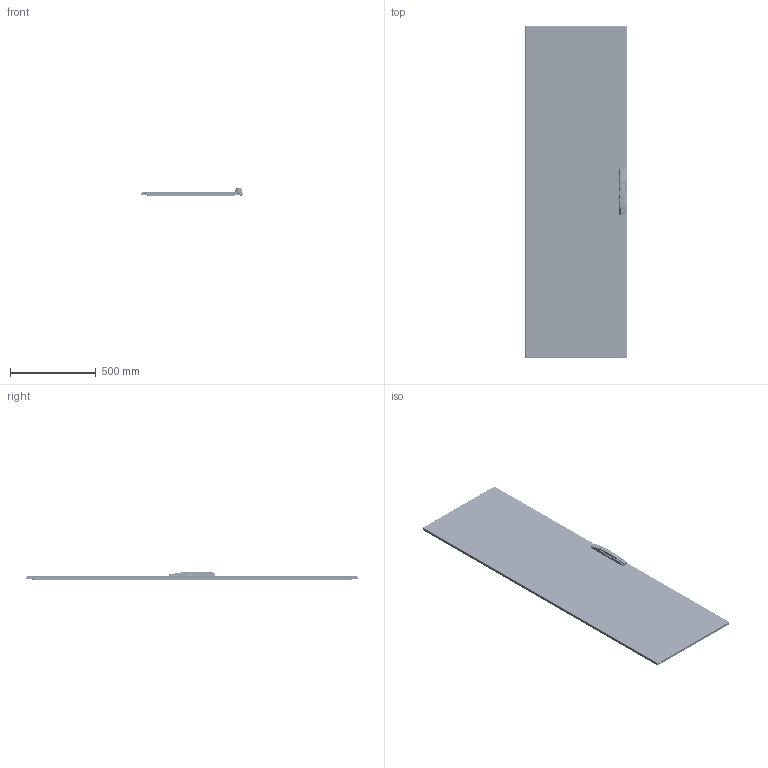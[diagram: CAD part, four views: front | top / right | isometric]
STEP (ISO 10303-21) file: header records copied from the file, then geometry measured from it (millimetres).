
FILE_DESCRIPTION (( 'STEP AP203' ), '1' );
FILE_NAME ('pds206g.STEP', '2013-10-16T10:41:40', ( '' ), ( '' ), 'SwSTEP 2.0', 'SolidWorks 2010', '' );
FILE_SCHEMA (( 'CONFIG_CONTROL_DESIGN' ));
Products named in the file (49): 89101845; 89091664_875472289; 20127259_20127259; 60127172_60127172; 87934847_87934847; 87920638_87920638; 87931368_SLEEVE; 87931527_87931527; 60100041_60100041; 60127101_After Weld; 31127217_31127217; 11458078_11458078; pds206g; 60127207; 46139001_46139001; 60127212; 60127208; 51137001; 60127093; 51138001_Compressed; 51223001; 46120001_Compressed; 11358765; 51145001_Extended; 11258014; 51231001; 11358763; 11258012; 11258013; 11358764; 51140001; 11458036; 11458037; 60127430; 60127173_60127173; 51232001_51232001; 60127277_60127277; 11158133_11581133; 11158132_THIKNESS .155 FIXED; 60127139_60127139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
Assembly tree (83 placements, depth 4):
  pds206g
    60127224_60127224
      11158133_11581133  x3
      11158132_THIKNESS .155 FIXED  x8
      60127106_60127106
      60127216_60127216  x3
        60127138_60127138
        60127140_60127140
        87576035_87576035
      60127139_60127139  x4
      60127175_60127175  x2
    20127259_20127259
      89091664_875472289  x4
      60127383_60127383  x2
      60127141_60127141  x2
      89101845  x4
    60127430
      60127207
      51145001_Extended
      11358764
      51138001_Compressed
      11458037
      51223001
      51140001
      11358763
      60127208
      46120001_Compressed
      11458036
      60127093
      51231001
      11258013
      46139001_46139001  x2
      11258014
      11258012
      60127212
      11358765
      51137001
    60127277_60127277  x2
      60127173_60127173
      51232001_51232001
    11458078_11458078
      60127172_60127172  x3
      60127101_After Weld  x3
      87920638_87920638  x6
      31127217_31127217
      60100041_60100041  x2
        87931527_87931527
        87931368_SLEEVE
      87934847_87934847
Bounding box: 591.79 x 1939 x 50.59 mm (x, y, z)
Volume: 2623718.1 mm3; surface area: 3536742.9 mm2
Topology: 82 solids, 82 shells, 6508 faces, 16388 edges, 10270 vertices
Faces by surface type: plane 2609, cylinder 2272, torus 956, cone 356, bspline 290, sphere 25
Entity records: 119650 total; most frequent: CARTESIAN_POINT 31492, DIRECTION 17332, ORIENTED_EDGE 17120, EDGE_CURVE 8560, AXIS2_PLACEMENT_3D 6611, VERTEX_POINT 5395, VECTOR 4110, LINE 4110
